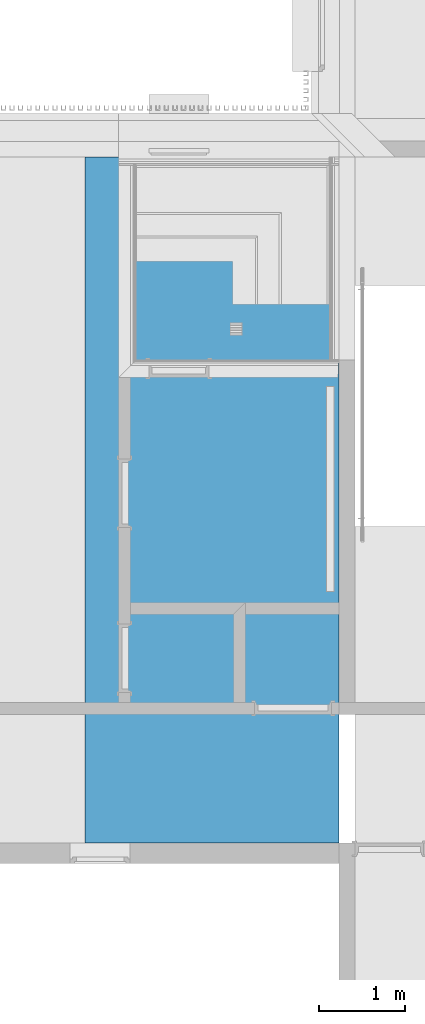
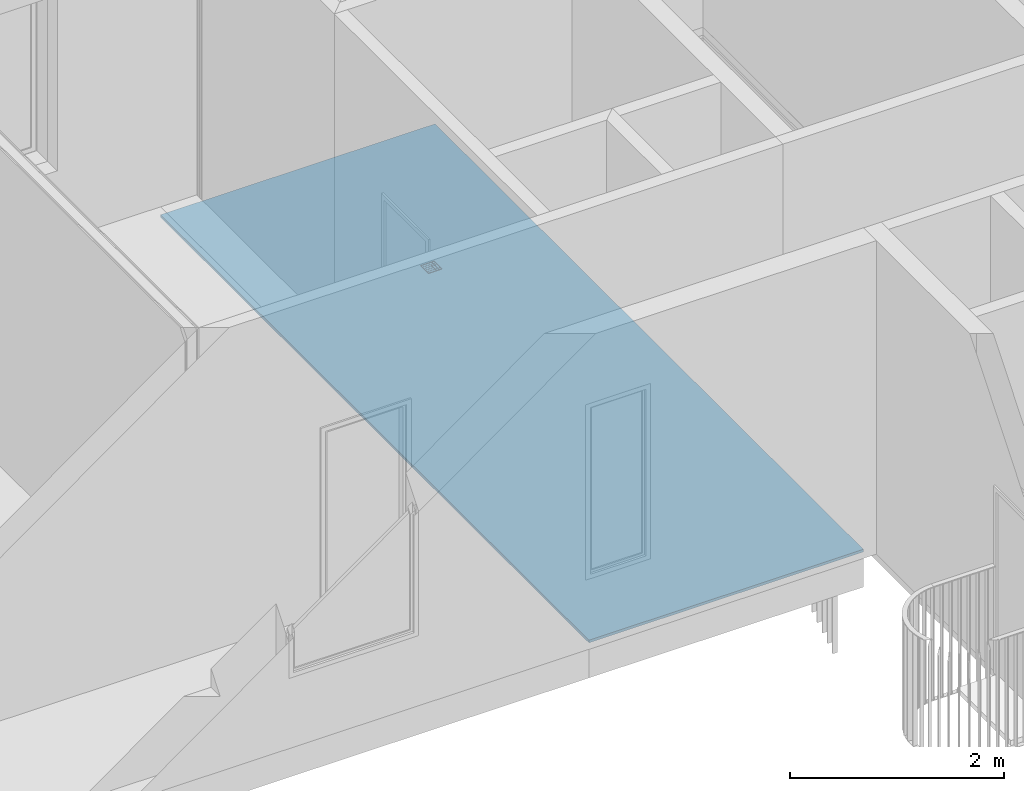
# One storey, part 67 of 100: 1 building element part, 1 element without a shape of its own.
"""IFC2X3 building model written with IfcOpenShell, lengths in millimetres."""

import ifcopenshell
import ifcopenshell.guid

model = None  # the IFC model being written
_history = None  # IfcOwnerHistory: only IFC2X3 demands one
_inside = {}  # id of a spatial element -> (the spatial element, [elements in it])
_under = {}  # id of a project, library or spatial element -> (it, [spatial elements below it])
_declared = {}  # id of a project -> (the project, [libraries it declares])
_typed = {}  # id of a type object -> (the type object, [elements of that type])
_made_of = {}  # id of a material, layer set ... -> (it, [elements and type objects made of it])


def new_model(schema):
    """Start an empty IFC model of exactly this schema.

    Asked for "IFC4X3", IfcOpenShell would pick the latest addendum, in which some entities
    have other attributes; the version numbers below select the first issue.
    IFC2X3 requires an IfcOwnerHistory on every rooted entity: one is made here for all.
    """
    global model, _history
    if schema == "IFC4X3":
        model = ifcopenshell.file(schema_version=(4, 3, 0, 0))
    else:
        model = ifcopenshell.file(schema=schema)
    _inside.clear()
    _under.clear()
    _declared.clear()
    _typed.clear()
    _made_of.clear()
    _history = None
    if model.schema == "IFC2X3":
        org = make("IfcOrganization", Name="unknown")
        user = make(
            "IfcPersonAndOrganization",
            ThePerson=make("IfcPerson", FamilyName="unknown"),
            TheOrganization=org,
        )
        app = make(
            "IfcApplication",
            ApplicationDeveloper=org,
            Version="unknown",
            ApplicationFullName="unknown",
            ApplicationIdentifier="unknown",
        )
        _history = make(
            "IfcOwnerHistory",
            OwningUser=user,
            OwningApplication=app,
            ChangeAction="ADDED",
            CreationDate=0,
        )
    return model


def make(cls, **values):
    """One entity of the class cls with the attributes given. An attribute that is None is left unset."""
    return model.create_entity(
        cls, **{name: value for name, value in values.items() if value is not None}
    )


def entity(cls, *values):
    """Any entity or typed value of the class cls, its attributes in the order of the schema. None: left unset."""
    e = model.create_entity(cls)
    for i, value in enumerate(values):
        if value is not None:
            e[i] = value
    return e


def rooted(cls, **values):
    """An entity with a GlobalId (a new one), such as an element, a storey or a relation."""
    return make(cls, GlobalId=ifcopenshell.guid.new(), OwnerHistory=_history, **values)


def si_unit(unit_type, name, prefix=None):
    """IfcSIUnit, for example si_unit("LENGTHUNIT", "METRE", prefix="MILLI")."""
    return make("IfcSIUnit", UnitType=unit_type, Prefix=prefix, Name=name)


def converted_unit(unit_type, name, factor, base, dimensions=None, offset=None):
    """IfcConversionBasedUnit, such as the inch: factor (a typed value) times the base unit."""
    return make(
        "IfcConversionBasedUnit"
        if offset is None
        else "IfcConversionBasedUnitWithOffset",
        ConversionOffset=offset,
        Dimensions=None
        if dimensions is None
        else entity("IfcDimensionalExponents", *dimensions),
        UnitType=unit_type,
        Name=name,
        ConversionFactor=make(
            "IfcMeasureWithUnit", ValueComponent=factor, UnitComponent=base
        ),
    )


def derived_unit(unit_type, elements):
    """IfcDerivedUnit: a product of units, each with its exponent."""
    return make(
        "IfcDerivedUnit",
        Elements=[
            make("IfcDerivedUnitElement", Unit=unit, Exponent=power)
            for unit, power in elements
        ],
        UnitType=unit_type,
    )


def money_unit(currency):
    """IfcMonetaryUnit."""
    return make("IfcMonetaryUnit", Currency=currency)


def assignment(units):
    """IfcUnitAssignment: the units of a project."""
    return None if units is None else make("IfcUnitAssignment", Units=units)


def point(xyz):
    """IfcCartesianPoint."""
    return None if xyz is None else make("IfcCartesianPoint", Coordinates=xyz)


def direction(xyz):
    """IfcDirection."""
    return None if xyz is None else make("IfcDirection", DirectionRatios=xyz)


def frame(location, z_axis=None, x_axis=None):
    """IfcAxis2Placement3D, a coordinate frame: its origin and axes. An axis left out is left unset."""
    return make(
        "IfcAxis2Placement3D",
        Location=point(location),
        Axis=direction(z_axis),
        RefDirection=direction(x_axis),
    )


def origin_with_axes():
    """The frame at (0, 0, 0) with the z axis (0, 0, 1) and the x axis (1, 0, 0) written out."""
    return frame((0.0, 0.0, 0.0), z_axis=(0.0, 0.0, 1.0), x_axis=(1.0, 0.0, 0.0))


def place(relative_to, where):
    """IfcLocalPlacement: puts the frame where relative to a parent placement (None: the world)."""
    return make(
        "IfcLocalPlacement", PlacementRelTo=relative_to, RelativePlacement=where
    )


def context(
    kind, dimensions, precision=None, world=None, true_north=None, identifier=None
):
    """IfcGeometricRepresentationContext, for example the 3D "Model" context."""
    return make(
        "IfcGeometricRepresentationContext",
        ContextIdentifier=identifier,
        ContextType=kind,
        CoordinateSpaceDimension=dimensions,
        Precision=precision,
        WorldCoordinateSystem=world,
        TrueNorth=true_north,
    )


def subcontext(parent, identifier, kind, view, scale=None):
    """IfcGeometricRepresentationSubContext, for example "Body" below "Model"."""
    return make(
        "IfcGeometricRepresentationSubContext",
        ContextIdentifier=identifier,
        ContextType=kind,
        ParentContext=parent,
        TargetScale=scale,
        TargetView=view,
    )


def project(units=None, contexts=None):
    """IfcProject with its units and contexts."""
    return rooted(
        "IfcProject",
        Name="project",
        RepresentationContexts=contexts,
        UnitsInContext=assignment(units),
    )


def spatial(cls, under=None, at=None, **own):
    """A site, building, storey or space (cls), placed at a placement, below another one or the project."""
    s = rooted(cls, ObjectPlacement=at, **own)
    if under is not None:
        _under.setdefault(under.id(), (under, []))[1].append(s)
    return s


def polyline(points):
    """IfcPolyline through the points."""
    return make("IfcPolyline", Points=[point(p) for p in points])


def outline(outer, holes=None, kind="AREA"):
    """IfcArbitraryClosedProfileDef: a profile drawn as a closed curve; with holes, ...WithVoids."""
    if holes is None:
        return make("IfcArbitraryClosedProfileDef", ProfileType=kind, OuterCurve=outer)
    return make(
        "IfcArbitraryProfileDefWithVoids",
        ProfileType=kind,
        OuterCurve=outer,
        InnerCurves=holes,
    )


def extrude(swept, where, along, depth):
    """IfcExtrudedAreaSolid: the profile swept, set in the frame where, extruded along a direction by depth."""
    return make(
        "IfcExtrudedAreaSolid",
        SweptArea=swept,
        Position=where,
        ExtrudedDirection=direction(along),
        Depth=depth,
    )


def boolean(op, a, b):
    """IfcBooleanResult of two solids."""
    return make("IfcBooleanResult", Operator=op, FirstOperand=a, SecondOperand=b)


def faces_of(points, faces, orient=None, outer=None):
    """IfcFace entities. A face is a list of loops; a loop is a list of indices into points, from 0.

    orient and outer hold one flag for each loop. By default every Orientation is true, the
    first loop of a face is its IfcFaceOuterBound and the others are IfcFaceBound.
    """
    made = []
    for i, loops in enumerate(faces):
        bounds = []
        for j, loop in enumerate(loops):
            is_outer = j == 0 if outer is None else outer[i][j]
            bounds.append(
                make(
                    "IfcFaceOuterBound" if is_outer else "IfcFaceBound",
                    Bound=make("IfcPolyLoop", Polygon=[points[k] for k in loop]),
                    Orientation=True if orient is None else orient[i][j],
                )
            )
        made.append(make("IfcFace", Bounds=bounds))
    return made


def faceted_brep(points, faces, orient=None, outer=None, voids=None):
    """IfcFacetedBrep: a solid bounded by flat faces; with voids (closed shells), ...WithVoids."""
    shared = [point(p) for p in points]
    hull = make("IfcClosedShell", CfsFaces=faces_of(shared, faces, orient, outer))
    if voids is None:
        return make("IfcFacetedBrep", Outer=hull)
    return make(
        "IfcFacetedBrepWithVoids",
        Outer=hull,
        Voids=[
            make(cls, CfsFaces=faces_of(shared, fs, o, b)) for cls, fs, o, b in voids
        ],
    )


def shape(context_of_items, identifier, shape_type, items):
    """IfcShapeRepresentation: the items that make up one representation, for example the "Body"."""
    return make(
        "IfcShapeRepresentation",
        ContextOfItems=context_of_items,
        RepresentationIdentifier=identifier,
        RepresentationType=shape_type,
        Items=items,
    )


def material(Name=None, Category=None):
    """IfcMaterial."""
    return make("IfcMaterial", Name=Name, Category=Category)


def made_of(thing, what):
    """Note that an element or type object is made of a material, layer set ...; save() writes the relation."""
    if what is not None:
        _made_of.setdefault(what.id(), (what, []))[1].append(thing)
    return thing


def type_object(cls, material=None, **own):
    """A type object (cls), such as IfcWallType, which elements share."""
    return made_of(rooted(cls, **own), material)


def element(
    cls,
    number,
    at=None,
    inside=None,
    cuts=None,
    type_object=None,
    material=None,
    context=None,
    identifier="Body",
    shape_type=None,
    held_by="IfcProductDefinitionShape",
    body=None,
    shapes=None,
    **own,
):
    """One element of the class cls, such as IfcWall. Its Tag is "e" and its number.

    at: its placement. inside: the storey or other place that contains it. cuts: it is an
    opening in that element (IfcRelVoidsElement). A single representation is given by context,
    identifier, shape_type and body (its items); several are given by shapes. held_by: the class
    of the entity that holds the representations. save() writes the other relations.
    """
    e = rooted(cls, Tag="e%d" % number, ObjectPlacement=at, **own)
    if body is not None:
        shapes = [shape(context, identifier, shape_type, body)]
    if shapes is not None:
        e.Representation = make(held_by, Representations=shapes)
    if inside is not None:
        _inside.setdefault(inside.id(), (inside, []))[1].append(e)
    if cuts is not None:
        rooted(
            "IfcRelVoidsElement", RelatingBuildingElement=cuts, RelatedOpeningElement=e
        )
    if type_object is not None:
        _typed.setdefault(type_object.id(), (type_object, []))[1].append(e)
    return made_of(e, material)


def aggregate(whole, parts):
    """IfcRelAggregates: a whole, such as a stair, and the parts it consists of."""
    return rooted("IfcRelAggregates", RelatingObject=whole, RelatedObjects=parts)


def save(model, path):
    """Write the relations noted so far, then the file.

    IfcRelAggregates (storeys below a building ...), IfcRelContainedInSpatialStructure (elements
    in a storey), IfcRelDefinesByType, IfcRelAssociatesMaterial and IfcRelDeclares: one each for
    every whole, place, type object, material and project.
    """
    for whole, parts in _under.values():
        aggregate(whole, parts)
    for where, things in _inside.values():
        rooted(
            "IfcRelContainedInSpatialStructure",
            RelatedElements=things,
            RelatingStructure=where,
        )
    for kind, things in _typed.values():
        rooted("IfcRelDefinesByType", RelatedObjects=things, RelatingType=kind)
    for what, things in _made_of.values():
        rooted("IfcRelAssociatesMaterial", RelatedObjects=things, RelatingMaterial=what)
    for by, libraries in _declared.values():
        rooted("IfcRelDeclares", RelatingContext=by, RelatedDefinitions=libraries)
    model.write(path)


model = new_model("IFC2X3")

# Units and contexts
model_context = context("Model", 3, precision=0.01, world=origin_with_axes(), true_north=direction((0.0, 1.0)))
body_context = subcontext(model_context, "Body", "Model", "MODEL_VIEW")
ifc_project = project(units=[si_unit("LENGTHUNIT", "METRE", prefix="MILLI"), si_unit("AREAUNIT", "SQUARE_METRE"), si_unit("VOLUMEUNIT", "CUBIC_METRE"), converted_unit("PLANEANGLEUNIT", "DEGREE", entity("IfcPlaneAngleMeasure", 0.0174532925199), si_unit("PLANEANGLEUNIT", "RADIAN"), dimensions=[0, 0, 0, 0, 0, 0, 0]), si_unit("SOLIDANGLEUNIT", "STERADIAN"), money_unit("EUR"), converted_unit("TIMEUNIT", "Year", entity("IfcTimeMeasure", 31556926.0), si_unit("TIMEUNIT", "SECOND"), dimensions=[0, 0, 1, 0, 0, 0, 0]), si_unit("MASSUNIT", "GRAM", prefix="KILO"), si_unit("THERMODYNAMICTEMPERATUREUNIT", "DEGREE_CELSIUS"), si_unit("LUMINOUSINTENSITYUNIT", "LUMEN"), si_unit("ENERGYUNIT", "JOULE", prefix="MEGA"), derived_unit("THERMALCONDUCTANCEUNIT", [(si_unit("POWERUNIT", "WATT"), 1), (si_unit("LENGTHUNIT", "METRE"), -1), (si_unit("THERMODYNAMICTEMPERATUREUNIT", "KELVIN"), -1)]), derived_unit("SPECIFICHEATCAPACITYUNIT", [(si_unit("ENERGYUNIT", "JOULE"), 1), (si_unit("MASSUNIT", "GRAM", prefix="KILO"), -1), (si_unit("THERMODYNAMICTEMPERATUREUNIT", "KELVIN"), -1)]), derived_unit("MASSDENSITYUNIT", [(si_unit("MASSUNIT", "GRAM", prefix="KILO"), 1), (si_unit("VOLUMEUNIT", "CUBIC_METRE"), -1)])], contexts=[model_context])

# Site, building, storey
site_placement = place(None, origin_with_axes())
site = spatial("IfcSite", under=ifc_project, at=site_placement, Name="Politse- ja Piirivalveameti ning Päästeameti ühishoone", CompositionType="ELEMENT")
building_placement = place(site_placement, origin_with_axes())
building = spatial("IfcBuilding", under=site, at=building_placement, Name="Politse- ja Piirivalveameti ning Päästeameti ühishoone", CompositionType="ELEMENT")
storey_placement = place(building_placement, frame((0.0, 0.0, 3800.0), z_axis=(0.0, 0.0, 1.0), x_axis=(1.0, 0.0, 0.0)))
storey = spatial("IfcBuildingStorey", under=building, at=storey_placement, Name="Teine korrus", CompositionType="ELEMENT", Elevation=3800.0)

# Slab, building element part
slab_type = type_object("IfcSlabType", Name="VL-05_Vahelagi   400 paneel 520", PredefinedType="NOTDEFINED")
slab_placement = place(storey_placement, frame((57010.0279565, 20999.9410462, 0.0), z_axis=(0.0, 0.0, 1.0), x_axis=(1.0, 0.0, 0.0)))
slab = element("IfcSlab", 1, at=slab_placement, inside=storey, type_object=slab_type, Name="VL-05", PredefinedType="NOTDEFINED")
ifc_material = material(Name="SOJ-04_Soojustus - Mineraal Kõva")
building_element_part_placement = place(slab_placement, origin_with_axes())
building_element_part = element("IfcBuildingElementPart", 2, at=building_element_part_placement, material=ifc_material, Name="SOJ-04_Soojustus - Mineraal Kõva", context=body_context, shape_type="CSG", body=[
    boolean("DIFFERENCE", boolean("DIFFERENCE", boolean("DIFFERENCE", extrude(outline(polyline([(0.0, 0.0), (0.00405077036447, -7999.9211851), (2960.52395533, -7999.9211851), (2960.52395533, -4.69243666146e-05), (0.0, 0.0)])), frame((0.0, 0.0, -120.0), z_axis=(0.0, 0.0, 1.0), x_axis=(1.0, 0.0, 0.0)), (0.0, 0.0, 1.0), 30.0), faceted_brep([(1687.3840015, -2080.03274076, -90.0), (1837.3840015, -2080.03274076, -90.0), (1837.3840015, -1930.03274076, -90.0), (1687.3840015, -1930.03274076, -90.0), (1806.8840015, -1960.53274076, -90.0), (1806.8840015, -1935.03274076, -90.0), (1832.3840015, -1935.03274076, -90.0), (1832.3840015, -1960.53274076, -90.0), (1806.8840015, -1989.53274076, -90.0), (1806.8840015, -1962.53274076, -90.0), (1832.3840015, -1962.53274076, -90.0), (1832.3840015, -1989.53274076, -90.0), (1806.8840015, -2018.53274076, -90.0), (1806.8840015, -1991.53274076, -90.0), (1832.3840015, -1991.53274076, -90.0), (1832.3840015, -2018.53274076, -90.0), (1806.8840015, -2047.53274076, -90.0), (1806.8840015, -2020.53274076, -90.0), (1832.3840015, -2020.53274076, -90.0), (1832.3840015, -2047.53274076, -90.0), (1777.8840015, -1960.53274076, -90.0), (1777.8840015, -1935.03274076, -90.0), (1804.8840015, -1935.03274076, -90.0), (1804.8840015, -1960.53274076, -90.0), (1777.8840015, -1989.53274076, -90.0), (1777.8840015, -1962.53274076, -90.0), (1804.8840015, -1962.53274076, -90.0), (1804.8840015, -1989.53274076, -90.0), (1777.8840015, -2018.53274076, -90.0), (1777.8840015, -1991.53274076, -90.0), (1804.8840015, -1991.53274076, -90.0), (1804.8840015, -2018.53274076, -90.0), (1777.8840015, -2047.53274076, -90.0), (1777.8840015, -2020.53274076, -90.0), (1804.8840015, -2020.53274076, -90.0), (1804.8840015, -2047.53274076, -90.0), (1748.8840015, -1960.53274076, -90.0), (1748.8840012, -1935.03274076, -90.0), (1775.8840015, -1935.03274076, -90.0), (1775.8840015, -1960.53274076, -90.0), (1748.8840015, -1989.53274076, -90.0), (1748.8840015, -1962.53274076, -90.0), (1775.8840015, -1962.53274076, -90.0), (1775.8840015, -1989.53274076, -90.0), (1748.8840015, -2018.53274076, -90.0), (1748.8840015, -1991.53274076, -90.0), (1775.8840015, -1991.53274076, -90.0), (1775.8840015, -2018.53274076, -90.0), (1748.8840015, -2047.53274076, -90.0), (1748.8840015, -2020.53274076, -90.0), (1775.8840015, -2020.53274076, -90.0), (1775.8840015, -2047.53274076, -90.0), (1719.8840015, -1960.53274076, -90.0), (1719.8840012, -1935.03274076, -90.0), (1746.8840015, -1935.03274076, -90.0), (1746.8840015, -1960.53274076, -90.0), (1719.8840015, -1989.53274076, -90.0), (1719.8840015, -1962.53274076, -90.0), (1746.8840015, -1962.53274076, -90.0), (1746.8840015, -1989.53274076, -90.0), (1719.8840015, -2018.53274076, -90.0), (1719.8840015, -1991.53274076, -90.0), (1746.8840015, -1991.53274076, -90.0), (1746.8840015, -2018.53274076, -90.0), (1719.8840015, -2047.53274076, -90.0), (1719.8840015, -2020.53274076, -90.0), (1746.8840015, -2020.53274076, -90.0), (1746.8840015, -2047.53274076, -90.0), (1692.3840015, -1960.53274076, -90.0), (1692.3840015, -1935.03274076, -90.0), (1717.8840015, -1935.03274076, -90.0), (1717.8840015, -1960.53274076, -90.0), (1692.3840015, -1989.53274076, -90.0), (1692.3840015, -1962.53274076, -90.0), (1717.8840015, -1962.53274076, -90.0), (1717.8840015, -1989.53274076, -90.0), (1692.3840015, -2018.53274076, -90.0), (1692.3840015, -1991.53274076, -90.0), (1717.8840015, -1991.53274076, -90.0), (1717.8840015, -2018.53274076, -90.0), (1692.3840015, -2047.53274076, -90.0), (1692.3840015, -2020.53274076, -90.0), (1717.8840015, -2020.53274076, -90.0), (1717.8840015, -2047.53274076, -90.0), (1692.3840015, -2075.03274076, -90.0), (1692.3840015, -2049.53274076, -90.0), (1717.8840015, -2049.53274076, -90.0), (1717.8840015, -2075.03274076, -90.0), (1719.8840015, -2075.03274076, -90.0), (1719.8840015, -2049.53274076, -90.0), (1746.8840015, -2049.53274076, -90.0), (1746.8840015, -2075.03274076, -90.0), (1748.8840015, -2075.03274076, -90.0), (1748.8840015, -2049.53274076, -90.0), (1775.8840015, -2049.53274076, -90.0), (1775.8840015, -2075.03274076, -90.0), (1777.8840015, -2075.03274076, -90.0), (1777.8840015, -2049.53274076, -90.0), (1804.8840015, -2049.53274076, -90.0), (1804.8840015, -2075.03274076, -90.0), (1806.8840015, -2075.03274076, -90.0), (1806.8840015, -2049.53274076, -90.0), (1832.3840015, -2049.53274076, -90.0), (1832.3840015, -2075.03274076, -90.0), (1687.3840015, -2080.03274076, -100.0), (1837.3840015, -2080.03274076, -100.0), (1837.3840015, -1930.03274076, -100.0), (1687.3840015, -1930.03274076, -100.0), (1806.8840015, -1960.53274076, -100.0), (1806.8840015, -1935.03274076, -100.0), (1832.3840015, -1935.03274076, -100.0), (1832.3840015, -1960.53274076, -100.0), (1806.8840015, -1989.53274076, -100.0), (1806.8840015, -1962.53274076, -100.0), (1832.3840015, -1962.53274076, -100.0), (1832.3840015, -1989.53274076, -100.0), (1806.8840015, -2018.53274076, -100.0), (1806.8840015, -1991.53274076, -100.0), (1832.3840015, -1991.53274076, -100.0), (1832.3840015, -2018.53274076, -100.0), (1806.8840015, -2047.53274076, -100.0), (1806.8840015, -2020.53274076, -100.0), (1832.3840015, -2020.53274076, -100.0), (1832.3840015, -2047.53274076, -100.0), (1777.8840015, -1960.53274076, -100.0), (1777.8840015, -1935.03274076, -100.0), (1804.8840015, -1935.03274076, -100.0), (1804.8840015, -1960.53274076, -100.0), (1777.8840015, -1989.53274076, -100.0), (1777.8840015, -1962.53274076, -100.0), (1804.8840015, -1962.53274076, -100.0), (1804.8840015, -1989.53274076, -100.0), (1777.8840015, -2018.53274076, -100.0), (1777.8840015, -1991.53274076, -100.0), (1804.8840015, -1991.53274076, -100.0), (1804.8840015, -2018.53274076, -100.0), (1777.8840015, -2047.53274076, -100.0), (1777.8840015, -2020.53274076, -100.0), (1804.8840015, -2020.53274076, -100.0), (1804.8840015, -2047.53274076, -100.0), (1748.8840015, -1960.53274076, -100.0), (1748.8840012, -1935.03274076, -100.0), (1775.8840015, -1935.03274076, -100.0), (1775.8840015, -1960.53274076, -100.0), (1748.8840015, -1989.53274076, -100.0), (1748.8840015, -1962.53274076, -100.0), (1775.8840015, -1962.53274076, -100.0), (1775.8840015, -1989.53274076, -100.0), (1748.8840015, -2018.53274076, -100.0), (1748.8840015, -1991.53274076, -100.0), (1775.8840015, -1991.53274076, -100.0), (1775.8840015, -2018.53274076, -100.0), (1748.8840015, -2047.53274076, -100.0), (1748.8840015, -2020.53274076, -100.0), (1775.8840015, -2020.53274076, -100.0), (1775.8840015, -2047.53274076, -100.0), (1719.8840015, -1960.53274076, -100.0), (1719.8840012, -1935.03274076, -100.0), (1746.8840015, -1935.03274076, -100.0), (1746.8840015, -1960.53274076, -100.0), (1719.8840015, -1989.53274076, -100.0), (1719.8840015, -1962.53274076, -100.0), (1746.8840015, -1962.53274076, -100.0), (1746.8840015, -1989.53274076, -100.0), (1719.8840015, -2018.53274076, -100.0), (1719.8840015, -1991.53274076, -100.0), (1746.8840015, -1991.53274076, -100.0), (1746.8840015, -2018.53274076, -100.0), (1719.8840015, -2047.53274076, -100.0), (1719.8840015, -2020.53274076, -100.0), (1746.8840015, -2020.53274076, -100.0), (1746.8840015, -2047.53274076, -100.0), (1692.3840015, -1960.53274076, -100.0), (1692.3840015, -1935.03274076, -100.0), (1717.8840015, -1935.03274076, -100.0), (1717.8840015, -1960.53274076, -100.0), (1692.3840015, -1989.53274076, -100.0), (1692.3840015, -1962.53274076, -100.0), (1717.8840015, -1962.53274076, -100.0), (1717.8840015, -1989.53274076, -100.0), (1692.3840015, -2018.53274076, -100.0), (1692.3840015, -1991.53274076, -100.0), (1717.8840015, -1991.53274076, -100.0), (1717.8840015, -2018.53274076, -100.0), (1692.3840015, -2047.53274076, -100.0), (1692.3840015, -2020.53274076, -100.0), (1717.8840015, -2020.53274076, -100.0), (1717.8840015, -2047.53274076, -100.0), (1692.3840015, -2075.03274076, -100.0), (1692.3840015, -2049.53274076, -100.0), (1717.8840015, -2049.53274076, -100.0), (1717.8840015, -2075.03274076, -100.0), (1719.8840015, -2075.03274076, -100.0), (1719.8840015, -2049.53274076, -100.0), (1746.8840015, -2049.53274076, -100.0), (1746.8840015, -2075.03274076, -100.0), (1748.8840015, -2075.03274076, -100.0), (1748.8840015, -2049.53274076, -100.0), (1775.8840015, -2049.53274076, -100.0), (1775.8840015, -2075.03274076, -100.0), (1777.8840015, -2075.03274076, -100.0), (1777.8840015, -2049.53274076, -100.0), (1804.8840015, -2049.53274076, -100.0), (1804.8840015, -2075.03274076, -100.0), (1806.8840015, -2075.03274076, -100.0), (1806.8840015, -2049.53274076, -100.0), (1832.3840015, -2049.53274076, -100.0), (1832.3840015, -2075.03274076, -100.0)], [[[0, 1, 2, 3], [4, 5, 6, 7], [8, 9, 10, 11], [12, 13, 14, 15], [16, 17, 18, 19], [20, 21, 22, 23], [24, 25, 26, 27], [28, 29, 30, 31], [32, 33, 34, 35], [36, 37, 38, 39], [40, 41, 42, 43], [44, 45, 46, 47], [48, 49, 50, 51], [52, 53, 54, 55], [56, 57, 58, 59], [60, 61, 62, 63], [64, 65, 66, 67], [68, 69, 70, 71], [72, 73, 74, 75], [76, 77, 78, 79], [80, 81, 82, 83], [84, 85, 86, 87], [88, 89, 90, 91], [92, 93, 94, 95], [96, 97, 98, 99], [100, 101, 102, 103]], [[1, 0, 104, 105]], [[2, 1, 105, 106]], [[3, 2, 106, 107]], [[0, 3, 107, 104]], [[5, 4, 108, 109]], [[6, 5, 109, 110]], [[7, 6, 110, 111]], [[4, 7, 111, 108]], [[9, 8, 112, 113]], [[10, 9, 113, 114]], [[11, 10, 114, 115]], [[8, 11, 115, 112]], [[13, 12, 116, 117]], [[14, 13, 117, 118]], [[15, 14, 118, 119]], [[12, 15, 119, 116]], [[17, 16, 120, 121]], [[18, 17, 121, 122]], [[19, 18, 122, 123]], [[16, 19, 123, 120]], [[21, 20, 124, 125]], [[22, 21, 125, 126]], [[23, 22, 126, 127]], [[20, 23, 127, 124]], [[25, 24, 128, 129]], [[26, 25, 129, 130]], [[27, 26, 130, 131]], [[24, 27, 131, 128]], [[29, 28, 132, 133]], [[30, 29, 133, 134]], [[31, 30, 134, 135]], [[28, 31, 135, 132]], [[33, 32, 136, 137]], [[34, 33, 137, 138]], [[35, 34, 138, 139]], [[32, 35, 139, 136]], [[37, 36, 140, 141]], [[38, 37, 141, 142]], [[39, 38, 142, 143]], [[36, 39, 143, 140]], [[41, 40, 144, 145]], [[42, 41, 145, 146]], [[43, 42, 146, 147]], [[40, 43, 147, 144]], [[45, 44, 148, 149]], [[46, 45, 149, 150]], [[47, 46, 150, 151]], [[44, 47, 151, 148]], [[49, 48, 152, 153]], [[50, 49, 153, 154]], [[51, 50, 154, 155]], [[48, 51, 155, 152]], [[53, 52, 156, 157]], [[54, 53, 157, 158]], [[55, 54, 158, 159]], [[52, 55, 159, 156]], [[57, 56, 160, 161]], [[58, 57, 161, 162]], [[59, 58, 162, 163]], [[56, 59, 163, 160]], [[61, 60, 164, 165]], [[62, 61, 165, 166]], [[63, 62, 166, 167]], [[60, 63, 167, 164]], [[65, 64, 168, 169]], [[66, 65, 169, 170]], [[67, 66, 170, 171]], [[64, 67, 171, 168]], [[69, 68, 172, 173]], [[70, 69, 173, 174]], [[71, 70, 174, 175]], [[68, 71, 175, 172]], [[73, 72, 176, 177]], [[74, 73, 177, 178]], [[75, 74, 178, 179]], [[72, 75, 179, 176]], [[77, 76, 180, 181]], [[78, 77, 181, 182]], [[79, 78, 182, 183]], [[76, 79, 183, 180]], [[81, 80, 184, 185]], [[82, 81, 185, 186]], [[83, 82, 186, 187]], [[80, 83, 187, 184]], [[85, 84, 188, 189]], [[86, 85, 189, 190]], [[87, 86, 190, 191]], [[84, 87, 191, 188]], [[89, 88, 192, 193]], [[90, 89, 193, 194]], [[91, 90, 194, 195]], [[88, 91, 195, 192]], [[93, 92, 196, 197]], [[94, 93, 197, 198]], [[95, 94, 198, 199]], [[92, 95, 199, 196]], [[97, 96, 200, 201]], [[98, 97, 201, 202]], [[99, 98, 202, 203]], [[96, 99, 203, 200]], [[101, 100, 204, 205]], [[102, 101, 205, 206]], [[103, 102, 206, 207]], [[100, 103, 207, 204]], [[107, 173, 172, 177, 176, 181, 180, 185, 184, 189, 188, 191, 192, 195, 196, 199, 200, 203, 204, 207, 206, 123, 122, 119, 118, 115, 114, 111, 110, 106, 105, 104]], [[173, 107, 106, 110, 109, 108, 113, 112, 117, 116, 121, 120, 205, 204, 203, 202, 139, 138, 135, 134, 131, 130, 127, 126, 125, 124, 129, 128, 133, 132, 137, 136, 201, 200, 199, 198, 155, 154, 151, 150, 147, 146, 143, 142, 141, 140, 145, 144, 149, 148, 153, 152, 197, 196, 195, 194, 171, 170, 167, 166, 163, 162, 159, 158, 157, 156, 161, 160, 165, 164, 169, 168, 193, 192, 191, 190, 187, 186, 183, 182, 179, 178, 175, 174]], [[114, 113, 108, 111]], [[117, 112, 115, 118]], [[122, 121, 116, 119]], [[206, 205, 120, 123]], [[130, 129, 124, 127]], [[133, 128, 131, 134]], [[138, 137, 132, 135]], [[201, 136, 139, 202]], [[145, 140, 143, 146]], [[150, 149, 144, 147]], [[154, 153, 148, 151]], [[197, 152, 155, 198]], [[159, 162, 161, 156]], [[166, 165, 160, 163]], [[170, 169, 164, 167]], [[171, 194, 193, 168]], [[175, 178, 177, 172]], [[179, 182, 181, 176]], [[183, 186, 185, 180]], [[187, 190, 189, 184]]])), faceted_brep([(1687.3840015, -2080.03274076, -90.0), (1687.3840015, -1930.03274076, -90.0), (1837.3840015, -1930.03274076, -90.0), (1837.3840015, -2080.03274076, -90.0), (1806.8840015, -1960.53274076, -90.0), (1832.3840015, -1960.53274076, -90.0), (1832.3840015, -1935.03274076, -90.0), (1806.8840015, -1935.03274076, -90.0), (1806.8840015, -1989.53274076, -90.0), (1832.3840015, -1989.53274076, -90.0), (1832.3840015, -1962.53274076, -90.0), (1806.8840015, -1962.53274076, -90.0), (1806.8840015, -2018.53274076, -90.0), (1832.3840015, -2018.53274076, -90.0), (1832.3840015, -1991.53274076, -90.0), (1806.8840015, -1991.53274076, -90.0), (1806.8840015, -2047.53274076, -90.0), (1832.3840015, -2047.53274076, -90.0), (1832.3840015, -2020.53274076, -90.0), (1806.8840015, -2020.53274076, -90.0), (1777.8840015, -1960.53274076, -90.0), (1804.8840015, -1960.53274076, -90.0), (1804.8840015, -1935.03274076, -90.0), (1777.8840015, -1935.03274076, -90.0), (1777.8840015, -1989.53274076, -90.0), (1804.8840015, -1989.53274076, -90.0), (1804.8840015, -1962.53274076, -90.0), (1777.8840015, -1962.53274076, -90.0), (1777.8840015, -2018.53274076, -90.0), (1804.8840015, -2018.53274076, -90.0), (1804.8840015, -1991.53274076, -90.0), (1777.8840015, -1991.53274076, -90.0), (1777.8840015, -2047.53274076, -90.0), (1804.8840015, -2047.53274076, -90.0), (1804.8840015, -2020.53274076, -90.0), (1777.8840015, -2020.53274076, -90.0), (1748.8840015, -1960.53274076, -90.0), (1775.8840015, -1960.53274076, -90.0), (1775.8840015, -1935.03274076, -90.0), (1748.8840012, -1935.03274076, -90.0), (1748.8840015, -1989.53274076, -90.0), (1775.8840015, -1989.53274076, -90.0), (1775.8840015, -1962.53274076, -90.0), (1748.8840015, -1962.53274076, -90.0), (1748.8840015, -2018.53274076, -90.0), (1775.8840015, -2018.53274076, -90.0), (1775.8840015, -1991.53274076, -90.0), (1748.8840015, -1991.53274076, -90.0), (1748.8840015, -2047.53274076, -90.0), (1775.8840015, -2047.53274076, -90.0), (1775.8840015, -2020.53274076, -90.0), (1748.8840015, -2020.53274076, -90.0), (1719.8840015, -1960.53274076, -90.0), (1746.8840015, -1960.53274076, -90.0), (1746.8840015, -1935.03274076, -90.0), (1719.8840012, -1935.03274076, -90.0), (1719.8840015, -1989.53274076, -90.0), (1746.8840015, -1989.53274076, -90.0), (1746.8840015, -1962.53274076, -90.0), (1719.8840015, -1962.53274076, -90.0), (1719.8840015, -2018.53274076, -90.0), (1746.8840015, -2018.53274076, -90.0), (1746.8840015, -1991.53274076, -90.0), (1719.8840015, -1991.53274076, -90.0), (1719.8840015, -2047.53274076, -90.0), (1746.8840015, -2047.53274076, -90.0), (1746.8840015, -2020.53274076, -90.0), (1719.8840015, -2020.53274076, -90.0), (1692.3840015, -1960.53274076, -90.0), (1717.8840015, -1960.53274076, -90.0), (1717.8840015, -1935.03274076, -90.0), (1692.3840015, -1935.03274076, -90.0), (1692.3840015, -1989.53274076, -90.0), (1717.8840015, -1989.53274076, -90.0), (1717.8840015, -1962.53274076, -90.0), (1692.3840015, -1962.53274076, -90.0), (1692.3840015, -2018.53274076, -90.0), (1717.8840015, -2018.53274076, -90.0), (1717.8840015, -1991.53274076, -90.0), (1692.3840015, -1991.53274076, -90.0), (1692.3840015, -2047.53274076, -90.0), (1717.8840015, -2047.53274076, -90.0), (1717.8840015, -2020.53274076, -90.0), (1692.3840015, -2020.53274076, -90.0), (1692.3840015, -2075.03274076, -90.0), (1717.8840015, -2075.03274076, -90.0), (1717.8840015, -2049.53274076, -90.0), (1692.3840015, -2049.53274076, -90.0), (1719.8840015, -2075.03274076, -90.0), (1746.8840015, -2075.03274076, -90.0), (1746.8840015, -2049.53274076, -90.0), (1719.8840015, -2049.53274076, -90.0), (1748.8840015, -2075.03274076, -90.0), (1775.8840015, -2075.03274076, -90.0), (1775.8840015, -2049.53274076, -90.0), (1748.8840015, -2049.53274076, -90.0), (1777.8840015, -2075.03274076, -90.0), (1804.8840015, -2075.03274076, -90.0), (1804.8840015, -2049.53274076, -90.0), (1777.8840015, -2049.53274076, -90.0), (1806.8840015, -2075.03274076, -90.0), (1832.3840015, -2075.03274076, -90.0), (1832.3840015, -2049.53274076, -90.0), (1806.8840015, -2049.53274076, -90.0), (1687.3840015, -2080.03274076, 0.0), (1687.3840015, -1930.03274076, 0.0), (1837.3840015, -1930.03274076, 0.0), (1837.3840015, -2080.03274076, 0.0), (1806.8840015, -1960.53274076, -56.35), (1832.3840015, -1960.53274076, -56.35), (1832.3840015, -1935.03274076, -56.35), (1806.8840015, -1935.03274076, -56.35), (1806.8840015, -1989.53274076, -56.35), (1832.3840015, -1989.53274076, -56.35), (1832.3840015, -1962.53274076, -56.35), (1806.8840015, -1962.53274076, -56.35), (1806.8840015, -2018.53274076, -56.35), (1832.3840015, -2018.53274076, -56.35), (1832.3840015, -1991.53274076, -56.35), (1806.8840015, -1991.53274076, -56.35), (1806.8840015, -2047.53274076, -56.35), (1832.3840015, -2047.53274076, -56.35), (1832.3840015, -2020.53274076, -56.35), (1806.8840015, -2020.53274076, -56.35), (1777.8840015, -1960.53274076, -56.35), (1804.8840015, -1960.53274076, -56.35), (1804.8840015, -1935.03274076, -56.35), (1777.8840015, -1935.03274076, -56.35), (1777.8840015, -1989.53274076, -56.35), (1804.8840015, -1989.53274076, -56.35), (1804.8840015, -1962.53274076, -56.35), (1777.8840015, -1962.53274076, -56.35), (1777.8840015, -2018.53274076, -56.35), (1804.8840015, -2018.53274076, -56.35), (1804.8840015, -1991.53274076, -56.35), (1777.8840015, -1991.53274076, -56.35), (1777.8840015, -2047.53274076, -56.35), (1804.8840015, -2047.53274076, -56.35), (1804.8840015, -2020.53274076, -56.35), (1777.8840015, -2020.53274076, -56.35), (1748.8840015, -1960.53274076, -56.35), (1775.8840015, -1960.53274076, -56.35), (1775.8840015, -1935.03274076, -56.35), (1748.8840012, -1935.03274076, -56.35), (1748.8840015, -1989.53274076, -56.35), (1775.8840015, -1989.53274076, -56.35), (1775.8840015, -1962.53274076, -56.35), (1748.8840015, -1962.53274076, -56.35), (1748.8840015, -2018.53274076, -56.35), (1775.8840015, -2018.53274076, -56.35), (1775.8840015, -1991.53274076, -56.35), (1748.8840015, -1991.53274076, -56.35), (1748.8840015, -2047.53274076, -56.35), (1775.8840015, -2047.53274076, -56.35), (1775.8840015, -2020.53274076, -56.35), (1748.8840015, -2020.53274076, -56.35), (1719.8840015, -1960.53274076, -56.35), (1746.8840015, -1960.53274076, -56.35), (1746.8840015, -1935.03274076, -56.35), (1719.8840012, -1935.03274076, -56.35), (1719.8840015, -1989.53274076, -56.35), (1746.8840015, -1989.53274076, -56.35), (1746.8840015, -1962.53274076, -56.35), (1719.8840015, -1962.53274076, -56.35), (1719.8840015, -2018.53274076, -56.35), (1746.8840015, -2018.53274076, -56.35), (1746.8840015, -1991.53274076, -56.35), (1719.8840015, -1991.53274076, -56.35), (1719.8840015, -2047.53274076, -56.35), (1746.8840015, -2047.53274076, -56.35), (1746.8840015, -2020.53274076, -56.35), (1719.8840015, -2020.53274076, -56.35), (1692.3840015, -1960.53274076, -56.35), (1717.8840015, -1960.53274076, -56.35), (1717.8840015, -1935.03274076, -56.35), (1692.3840015, -1935.03274076, -56.35), (1692.3840015, -1989.53274076, -56.35), (1717.8840015, -1989.53274076, -56.35), (1717.8840015, -1962.53274076, -56.35), (1692.3840015, -1962.53274076, -56.35), (1692.3840015, -2018.53274076, -56.35), (1717.8840015, -2018.53274076, -56.35), (1717.8840015, -1991.53274076, -56.35), (1692.3840015, -1991.53274076, -56.35), (1692.3840015, -2047.53274076, -56.35), (1717.8840015, -2047.53274076, -56.35), (1717.8840015, -2020.53274076, -56.35), (1692.3840015, -2020.53274076, -56.35), (1692.3840015, -2075.03274076, -56.35), (1717.8840015, -2075.03274076, -56.35), (1717.8840015, -2049.53274076, -56.35), (1692.3840015, -2049.53274076, -56.35), (1719.8840015, -2075.03274076, -56.35), (1746.8840015, -2075.03274076, -56.35), (1746.8840015, -2049.53274076, -56.35), (1719.8840015, -2049.53274076, -56.35), (1748.8840015, -2075.03274076, -56.35), (1775.8840015, -2075.03274076, -56.35), (1775.8840015, -2049.53274076, -56.35), (1748.8840015, -2049.53274076, -56.35), (1777.8840015, -2075.03274076, -56.35), (1804.8840015, -2075.03274076, -56.35), (1804.8840015, -2049.53274076, -56.35), (1777.8840015, -2049.53274076, -56.35), (1806.8840015, -2075.03274076, -56.35), (1832.3840015, -2075.03274076, -56.35), (1832.3840015, -2049.53274076, -56.35), (1806.8840015, -2049.53274076, -56.35)], [[[0, 1, 2, 3], [4, 5, 6, 7], [8, 9, 10, 11], [12, 13, 14, 15], [16, 17, 18, 19], [20, 21, 22, 23], [24, 25, 26, 27], [28, 29, 30, 31], [32, 33, 34, 35], [36, 37, 38, 39], [40, 41, 42, 43], [44, 45, 46, 47], [48, 49, 50, 51], [52, 53, 54, 55], [56, 57, 58, 59], [60, 61, 62, 63], [64, 65, 66, 67], [68, 69, 70, 71], [72, 73, 74, 75], [76, 77, 78, 79], [80, 81, 82, 83], [84, 85, 86, 87], [88, 89, 90, 91], [92, 93, 94, 95], [96, 97, 98, 99], [100, 101, 102, 103]], [[104, 105, 1, 0]], [[105, 106, 2, 1]], [[106, 107, 3, 2]], [[107, 104, 0, 3]], [[5, 4, 108, 109]], [[6, 5, 109, 110]], [[7, 6, 110, 111]], [[4, 7, 111, 108]], [[9, 8, 112, 113]], [[10, 9, 113, 114]], [[11, 10, 114, 115]], [[8, 11, 115, 112]], [[13, 12, 116, 117]], [[14, 13, 117, 118]], [[15, 14, 118, 119]], [[12, 15, 119, 116]], [[17, 16, 120, 121]], [[18, 17, 121, 122]], [[19, 18, 122, 123]], [[16, 19, 123, 120]], [[21, 20, 124, 125]], [[22, 21, 125, 126]], [[23, 22, 126, 127]], [[20, 23, 127, 124]], [[25, 24, 128, 129]], [[26, 25, 129, 130]], [[27, 26, 130, 131]], [[24, 27, 131, 128]], [[29, 28, 132, 133]], [[30, 29, 133, 134]], [[31, 30, 134, 135]], [[28, 31, 135, 132]], [[33, 32, 136, 137]], [[34, 33, 137, 138]], [[35, 34, 138, 139]], [[32, 35, 139, 136]], [[37, 36, 140, 141]], [[38, 37, 141, 142]], [[39, 38, 142, 143]], [[36, 39, 143, 140]], [[41, 40, 144, 145]], [[42, 41, 145, 146]], [[43, 42, 146, 147]], [[40, 43, 147, 144]], [[45, 44, 148, 149]], [[46, 45, 149, 150]], [[47, 46, 150, 151]], [[44, 47, 151, 148]], [[49, 48, 152, 153]], [[50, 49, 153, 154]], [[51, 50, 154, 155]], [[48, 51, 155, 152]], [[53, 52, 156, 157]], [[54, 53, 157, 158]], [[55, 54, 158, 159]], [[52, 55, 159, 156]], [[57, 56, 160, 161]], [[58, 57, 161, 162]], [[59, 58, 162, 163]], [[56, 59, 163, 160]], [[61, 60, 164, 165]], [[62, 61, 165, 166]], [[63, 62, 166, 167]], [[60, 63, 167, 164]], [[65, 64, 168, 169]], [[66, 65, 169, 170]], [[67, 66, 170, 171]], [[64, 67, 171, 168]], [[69, 68, 172, 173]], [[70, 69, 173, 174]], [[71, 70, 174, 175]], [[68, 71, 175, 172]], [[73, 72, 176, 177]], [[74, 73, 177, 178]], [[75, 74, 178, 179]], [[72, 75, 179, 176]], [[77, 76, 180, 181]], [[78, 77, 181, 182]], [[79, 78, 182, 183]], [[76, 79, 183, 180]], [[81, 80, 184, 185]], [[82, 81, 185, 186]], [[83, 82, 186, 187]], [[80, 83, 187, 184]], [[85, 84, 188, 189]], [[86, 85, 189, 190]], [[87, 86, 190, 191]], [[84, 87, 191, 188]], [[89, 88, 192, 193]], [[90, 89, 193, 194]], [[91, 90, 194, 195]], [[88, 91, 195, 192]], [[93, 92, 196, 197]], [[94, 93, 197, 198]], [[95, 94, 198, 199]], [[92, 95, 199, 196]], [[97, 96, 200, 201]], [[98, 97, 201, 202]], [[99, 98, 202, 203]], [[96, 99, 203, 200]], [[101, 100, 204, 205]], [[102, 101, 205, 206]], [[103, 102, 206, 207]], [[100, 103, 207, 204]], [[104, 107, 106, 105]], [[110, 109, 108, 111]], [[113, 112, 115, 114]], [[117, 116, 119, 118]], [[122, 121, 120, 123]], [[125, 124, 127, 126]], [[128, 131, 130, 129]], [[133, 132, 135, 134]], [[138, 137, 136, 139]], [[141, 140, 143, 142]], [[145, 144, 147, 146]], [[148, 151, 150, 149]], [[152, 155, 154, 153]], [[157, 156, 159, 158]], [[162, 161, 160, 163]], [[165, 164, 167, 166]], [[168, 171, 170, 169]], [[173, 172, 175, 174]], [[176, 179, 178, 177]], [[180, 183, 182, 181]], [[184, 187, 186, 185]], [[189, 188, 191, 190]], [[192, 195, 194, 193]], [[198, 197, 196, 199]], [[202, 201, 200, 203]], [[206, 205, 204, 207]]])), faceted_brep([(2811.34537417, -5070.95374237, 0.0), (2911.34537417, -5070.95374237, 0.0), (2911.34537417, -2670.95374237, 0.0), (2811.34537417, -2670.95374237, 0.0), (2811.34537417, -5070.95374237, -50.0), (2911.34537417, -5070.95374237, -50.0), (2911.34537417, -2670.95374237, -50.0), (2811.34537417, -2670.95374237, -50.0), (2816.34537417, -2675.95374237, -50.0), (2816.34537417, -3869.95374237, -50.0), (2816.34537417, -3871.95374237, -50.0), (2816.34537417, -5065.95374237, -50.0), (2836.59537417, -5065.95374237, -50.0), (2838.59537447, -5065.95374237, -50.0), (2860.34537417, -5065.95374237, -50.0), (2862.34537417, -5065.95374237, -50.0), (2884.09537417, -5065.95374237, -50.0), (2886.09537417, -5065.95374237, -50.0), (2906.34537417, -5065.95374237, -50.0), (2906.34537417, -3871.95374237, -50.0), (2906.34537417, -3869.95374237, -50.0), (2906.34537417, -2675.95374237, -50.0), (2886.09537417, -2675.95374237, -50.0), (2886.09537417, -3869.95374237, -50.0), (2886.09537417, -3871.95374237, -50.0), (2884.09537417, -3871.95374237, -50.0), (2884.09537417, -3869.95374237, -50.0), (2884.09537417, -2675.95374237, -50.0), (2862.34537417, -2675.95374237, -50.0), (2862.34537417, -3869.95374237, -50.0), (2862.34537417, -3871.95374237, -50.0), (2860.34537417, -3871.95374237, -50.0), (2860.34537417, -3869.95374237, -50.0), (2860.34537417, -2675.95374237, -50.0), (2838.59537417, -2675.95374237, -50.0), (2838.59537417, -3869.95374237, -50.0), (2838.59537417, -3871.95374237, -50.0), (2836.59537417, -3871.95374237, -50.0), (2836.59537417, -3869.95374237, -50.0), (2836.59537417, -2675.95374237, -50.0), (2816.34537417, -2675.95374237, -31.35), (2816.34537417, -3869.95374237, -31.35), (2816.34537417, -3871.95374237, -31.35), (2816.34537417, -5065.95374237, -31.35), (2836.59537417, -5065.95374237, -31.35), (2838.59537447, -5065.95374237, -31.35), (2860.34537417, -5065.95374237, -31.35), (2862.34537417, -5065.95374237, -31.35), (2884.09537417, -5065.95374237, -31.35), (2886.09537417, -5065.95374237, -31.35), (2906.34537417, -5065.95374237, -31.35), (2906.34537417, -3871.95374237, -31.35), (2906.34537417, -3869.95374237, -31.35), (2906.34537417, -2675.95374237, -31.35), (2886.09537417, -2675.95374237, -31.35), (2886.09537417, -3869.95374237, -31.35), (2886.09537417, -3871.95374237, -31.35), (2884.09537417, -3871.95374237, -31.35), (2884.09537417, -3869.95374237, -31.35), (2884.09537417, -2675.95374237, -31.35), (2862.34537417, -2675.95374237, -31.35), (2862.34537417, -3869.95374237, -31.35), (2862.34537417, -3871.95374237, -31.35), (2860.34537417, -3871.95374237, -31.35), (2860.34537417, -3869.95374237, -31.35), (2860.34537417, -2675.95374237, -31.35), (2838.59537417, -2675.95374237, -31.35), (2838.59537417, -3869.95374237, -31.35), (2838.59537417, -3871.95374237, -31.35), (2836.59537417, -3871.95374237, -31.35), (2836.59537417, -3869.95374237, -31.35), (2836.59537417, -2675.95374237, -31.35)], [[[0, 1, 2, 3]], [[1, 0, 4, 5]], [[2, 1, 5, 6]], [[3, 2, 6, 7]], [[0, 3, 7, 4]], [[7, 8, 9, 10, 11, 12, 13, 14, 15, 16, 17, 18, 19, 20, 21, 6, 5, 4]], [[8, 7, 6, 21, 22, 23, 24, 17, 16, 25, 26, 27, 28, 29, 30, 15, 14, 31, 32, 33, 34, 35, 36, 13, 12, 37, 38, 39]], [[8, 40, 41, 9]], [[10, 9, 38, 37]], [[10, 42, 43, 11]], [[11, 43, 44, 12]], [[13, 45, 46, 14]], [[15, 47, 48, 16]], [[17, 49, 50, 18]], [[18, 50, 51, 19]], [[24, 23, 20, 19]], [[20, 52, 53, 21]], [[54, 22, 21, 53]], [[22, 54, 55, 23]], [[49, 17, 24, 56]], [[16, 48, 57, 25]], [[25, 30, 29, 26]], [[26, 58, 59, 27]], [[60, 28, 27, 59]], [[28, 60, 61, 29]], [[47, 15, 30, 62]], [[63, 31, 14, 46]], [[36, 35, 32, 31]], [[32, 64, 65, 33]], [[66, 34, 33, 65]], [[34, 66, 67, 35]], [[36, 68, 45, 13]], [[69, 37, 12, 44]], [[38, 70, 71, 39]], [[40, 8, 39, 71]], [[41, 40, 71, 70]], [[9, 41, 70, 38]], [[42, 10, 37, 69]], [[43, 42, 69, 44]], [[68, 63, 46, 45]], [[48, 47, 62, 57]], [[50, 49, 56, 51]], [[56, 24, 19, 51]], [[23, 55, 52, 20]], [[52, 55, 54, 53]], [[62, 30, 25, 57]], [[29, 61, 58, 26]], [[61, 60, 59, 58]], [[68, 36, 31, 63]], [[35, 67, 64, 32]], [[64, 67, 66, 65]]])),
])
aggregate(slab, [building_element_part])

save(model, "model.ifc")
